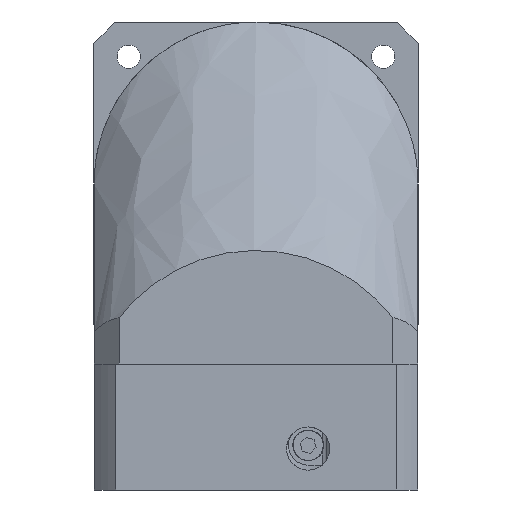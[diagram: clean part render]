
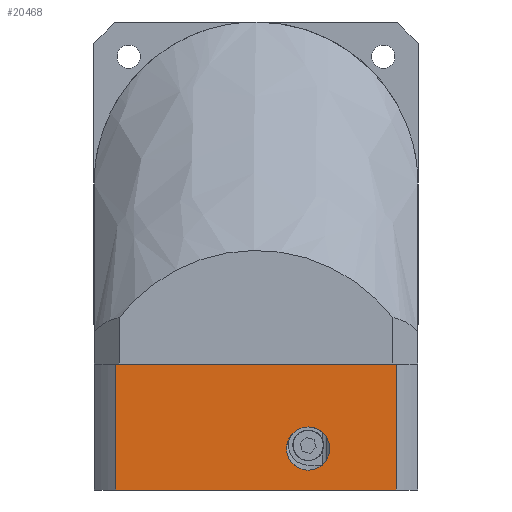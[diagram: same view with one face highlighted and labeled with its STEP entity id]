
A CAD part, front view. The second image highlights one B-rep face of the part: STEP entity #20468.
In plain terms, the highlighted planar face has unit normal (0, -1, 0) as drawn and (0, 0, 1) by its records, which use the part's own axes.
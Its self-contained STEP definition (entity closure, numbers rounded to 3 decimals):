
#1008 = EDGE_LOOP ( 'NONE', ( #22027, #3847, #11890, #20613 ) ) ;
#1493 = EDGE_LOOP ( 'NONE', ( #6939, #21496 ) ) ;
#1550 = DIRECTION ( 'NONE',  ( 1., 0., 0. ) ) ;
#2639 = DIRECTION ( 'NONE',  ( 0., 0., -1. ) ) ;
#2722 = CARTESIAN_POINT ( 'NONE',  ( 11.5, -14.5, 45. ) ) ;
#2982 = AXIS2_PLACEMENT_3D ( 'NONE', #2722, #2639, #1550 ) ;
#3529 = VERTEX_POINT ( 'NONE', #15535 ) ;
#3847 = ORIENTED_EDGE ( 'NONE', *, *, #8559, .T. ) ;
#4069 = CARTESIAN_POINT ( 'NONE',  ( 35., 38.926, 45. ) ) ;
#5910 = EDGE_CURVE ( 'NONE', #12081, #3529, #10558, .T. ) ;
#6281 = VERTEX_POINT ( 'NONE', #4069 ) ;
#6608 = FACE_BOUND ( 'NONE', #1493, .T. ) ;
#6635 = FACE_OUTER_BOUND ( 'NONE', #1008, .T. ) ;
#6748 = EDGE_CURVE ( 'NONE', #19723, #10967, #15750, .T. ) ;
#6792 = DIRECTION ( 'NONE',  ( 1., 0., 0. ) ) ;
#6815 = DIRECTION ( 'NONE',  ( 0., 0., -1. ) ) ;
#6822 = CARTESIAN_POINT ( 'NONE',  ( 11.5, -14.5, 45. ) ) ;
#6939 = ORIENTED_EDGE ( 'NONE', *, *, #12815, .T. ) ;
#6956 = CARTESIAN_POINT ( 'NONE',  ( 35., -38.926, 45. ) ) ;
#7539 = EDGE_CURVE ( 'NONE', #6281, #14048, #21716, .T. ) ;
#8559 = EDGE_CURVE ( 'NONE', #10967, #6281, #11661, .T. ) ;
#9957 = DIRECTION ( 'NONE',  ( -1., 0., 0. ) ) ;
#10249 = CARTESIAN_POINT ( 'NONE',  ( 59., 38.926, 45. ) ) ;
#10452 = VECTOR ( 'NONE', #17183, 1000. ) ;
#10480 = LINE ( 'NONE', #15439, #10688 ) ;
#10558 = CIRCLE ( 'NONE', #2982, 6. ) ;
#10688 = VECTOR ( 'NONE', #15405, 1000. ) ;
#10967 = VERTEX_POINT ( 'NONE', #6956 ) ;
#11661 = LINE ( 'NONE', #17215, #10452 ) ;
#11890 = ORIENTED_EDGE ( 'NONE', *, *, #7539, .T. ) ;
#12081 = VERTEX_POINT ( 'NONE', #19455 ) ;
#12255 = EDGE_CURVE ( 'NONE', #14048, #19723, #10480, .T. ) ;
#12815 = EDGE_CURVE ( 'NONE', #3529, #12081, #15348, .T. ) ;
#14048 = VERTEX_POINT ( 'NONE', #21554 ) ;
#15348 = CIRCLE ( 'NONE', #22625, 6. ) ;
#15405 = DIRECTION ( 'NONE',  ( 0., -1., 0. ) ) ;
#15439 = CARTESIAN_POINT ( 'NONE',  ( 0., -45., 45. ) ) ;
#15535 = CARTESIAN_POINT ( 'NONE',  ( 17.5, -14.5, 45. ) ) ;
#15699 = PLANE ( 'NONE',  #18386 ) ;
#15750 = LINE ( 'NONE', #24425, #15840 ) ;
#15840 = VECTOR ( 'NONE', #24471, 1000. ) ;
#16003 = DIRECTION ( 'NONE',  ( 1., 0., 0. ) ) ;
#16030 = DIRECTION ( 'NONE',  ( 0., 0., 1. ) ) ;
#16177 = CARTESIAN_POINT ( 'NONE',  ( 59., -45., 45. ) ) ;
#17183 = DIRECTION ( 'NONE',  ( 0., 1., 0. ) ) ;
#17215 = CARTESIAN_POINT ( 'NONE',  ( 35., 59.5, 45. ) ) ;
#18386 = AXIS2_PLACEMENT_3D ( 'NONE', #16177, #16030, #16003 ) ;
#19455 = CARTESIAN_POINT ( 'NONE',  ( 5.5, -14.5, 45. ) ) ;
#19723 = VERTEX_POINT ( 'NONE', #23131 ) ;
#20468 = ADVANCED_FACE ( 'NONE', ( #6635, #6608 ), #15699, .T. ) ;
#20613 = ORIENTED_EDGE ( 'NONE', *, *, #12255, .T. ) ;
#21496 = ORIENTED_EDGE ( 'NONE', *, *, #5910, .T. ) ;
#21554 = CARTESIAN_POINT ( 'NONE',  ( 0., 38.926, 45. ) ) ;
#21716 = LINE ( 'NONE', #10249, #22087 ) ;
#22027 = ORIENTED_EDGE ( 'NONE', *, *, #6748, .T. ) ;
#22087 = VECTOR ( 'NONE', #9957, 1000. ) ;
#22625 = AXIS2_PLACEMENT_3D ( 'NONE', #6822, #6815, #6792 ) ;
#23131 = CARTESIAN_POINT ( 'NONE',  ( 0., -38.926, 45. ) ) ;
#24425 = CARTESIAN_POINT ( 'NONE',  ( 59., -38.926, 45. ) ) ;
#24471 = DIRECTION ( 'NONE',  ( 1., 0., 0. ) ) ;
